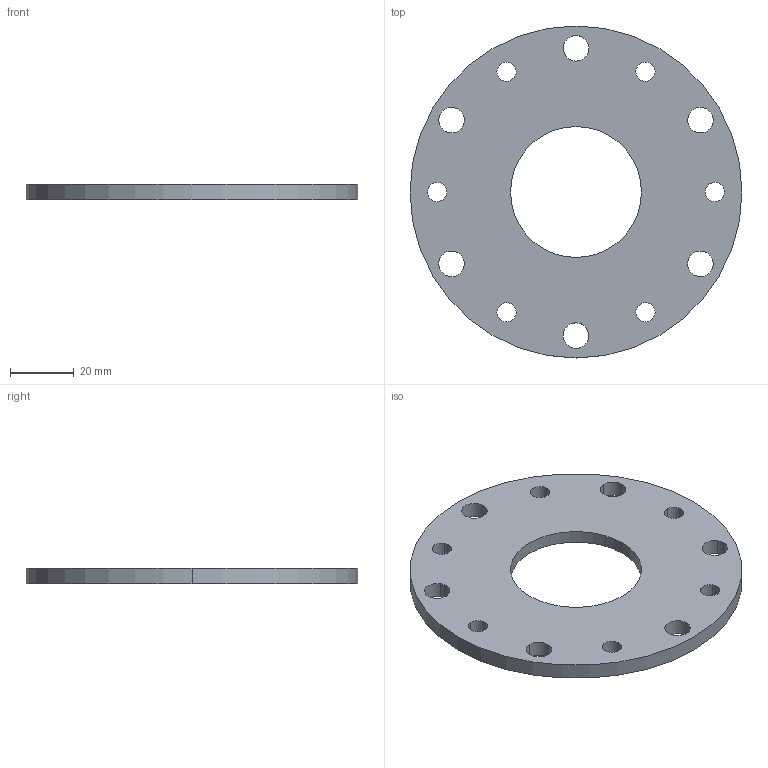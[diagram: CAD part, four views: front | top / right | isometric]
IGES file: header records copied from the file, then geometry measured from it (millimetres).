
Start section: START RECORD GO HERE.
Global section: file name: R8_BaseCap.igs; native system: IBM CATIA IGES - CATIA Version 5 Release 18 ; preprocessor: CATIA Version 5 Release 18 ; author: Barry; organization: win764bit; date: 20170723.073248; units: millimetre
Bounding box: 104 x 104 x 5 mm (x, y, z)
Surface area: 17047.9 mm2 (no closed solid volume)
Topology: 0 solids, 0 shells, 33 faces, 180 edges, 181 vertices
Faces by surface type: revolution 30, plane 3
